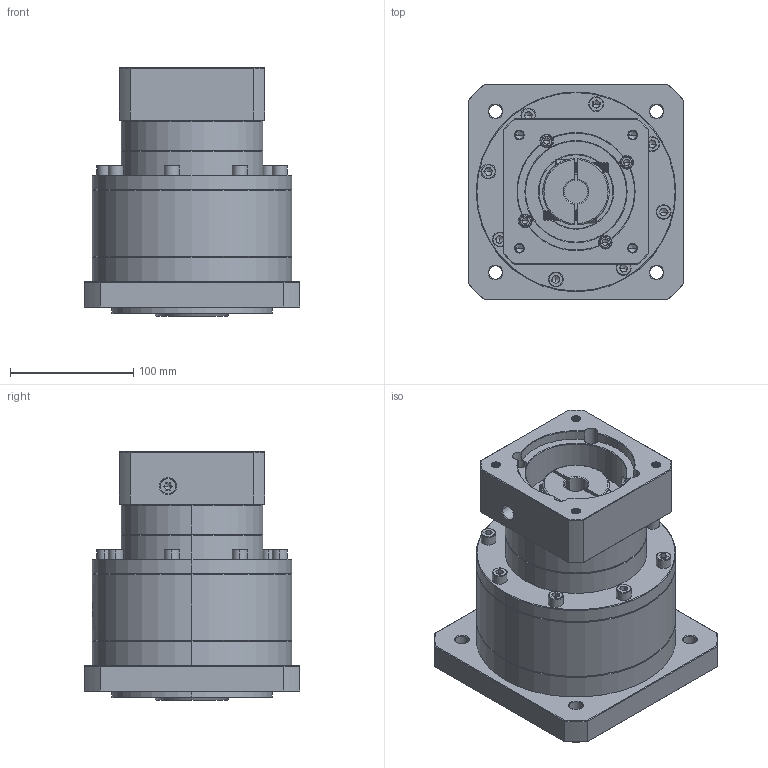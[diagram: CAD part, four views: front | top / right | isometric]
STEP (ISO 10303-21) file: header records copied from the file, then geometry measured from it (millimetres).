
FILE_DESCRIPTION (( 'STEP AP214' ), '1' );
FILE_NAME ('ZF160A-K35-L2-P2-19-95-130-M8.step', '2023-09-03T07:57:27', ( '' ), ( '' ), 'SwSTEP 2.0', 'SolidWorks 2016', '' );
FILE_SCHEMA (( 'AUTOMOTIVE_DESIGN' ));
Length unit declared in the file: millimetre
Products named in the file (1): ZF160A-K35-L2-P2-19-95-130-M8
Bounding box: 175 x 175 x 201.7 mm (x, y, z)
Volume: 3228341.3 mm3; surface area: 255249.7 mm2
Topology: 6 solids, 6 shells, 2374 faces, 6264 edges, 4012 vertices
Faces by surface type: plane 1112, cylinder 453, bspline 398, cone 355, torus 56
Entity records: 125416 total; most frequent: CARTESIAN_POINT 45574, ORIENTED_EDGE 12424, DIRECTION 9483, EDGE_CURVE 6212, VERTEX_POINT 4012, VECTOR 3321, LINE 3321, AXIS2_PLACEMENT_3D 3081
